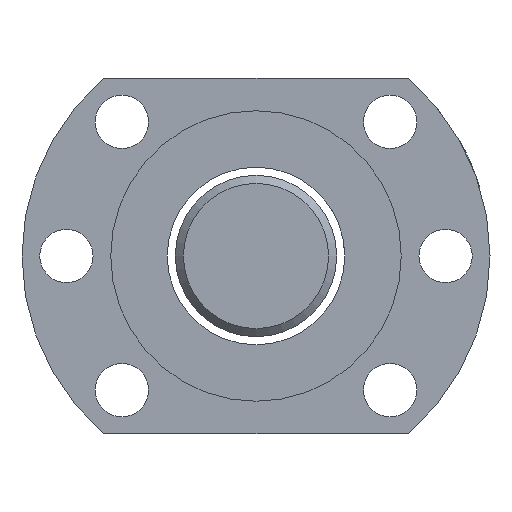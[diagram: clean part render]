
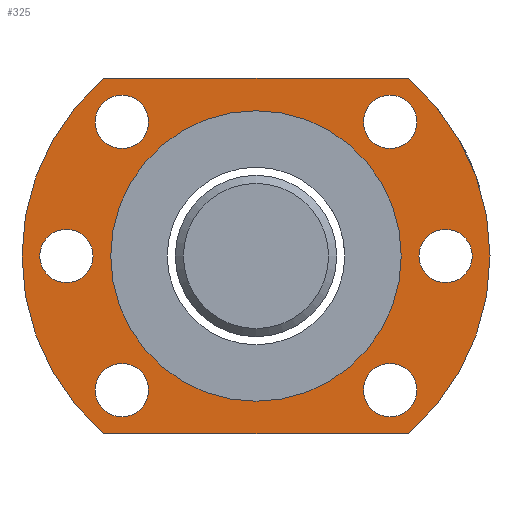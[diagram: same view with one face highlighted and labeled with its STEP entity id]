
A CAD part, left-side view. The second image highlights one B-rep face of the part: STEP entity #325.
In plain terms, the highlighted planar face has unit normal (-1, 0, 0).
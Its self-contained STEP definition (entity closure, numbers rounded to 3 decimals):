
#42 = DIRECTION ( 'NONE',  ( 0., 0., 1. ) ) ;
#60 = DIRECTION ( 'NONE',  ( 0., 0., -1. ) ) ;
#63 = EDGE_LOOP ( 'NONE', ( #995 ) ) ;
#90 = AXIS2_PLACEMENT_3D ( 'NONE', #498, #1494, #2589 ) ;
#164 = EDGE_CURVE ( 'NONE', #2120, #2120, #1975, .T. ) ;
#168 = CARTESIAN_POINT ( 'NONE',  ( -65.328, -20.475, -53.11 ) ) ;
#260 = DIRECTION ( 'NONE',  ( -1., 0., 0. ) ) ;
#265 = VERTEX_POINT ( 'NONE', #2471 ) ;
#274 = PLANE ( 'NONE',  #720 ) ;
#302 = EDGE_LOOP ( 'NONE', ( #1892 ) ) ;
#325 = ADVANCED_FACE ( 'NONE', ( #2270, #2073, #622, #1645, #649, #2285, #636, #454 ), #274, .T. ) ;
#340 = CIRCLE ( 'NONE', #2404, 3.3 ) ;
#351 = EDGE_LOOP ( 'NONE', ( #1257, #2218, #1585, #1439 ) ) ;
#366 = CARTESIAN_POINT ( 'NONE',  ( -65.328, -43.975, -31.81 ) ) ;
#384 = AXIS2_PLACEMENT_3D ( 'NONE', #1074, #2504, #865 ) ;
#393 = CARTESIAN_POINT ( 'NONE',  ( -65.328, -37.092, -48.427 ) ) ;
#401 = DIRECTION ( 'NONE',  ( 0., 0., 1. ) ) ;
#437 = EDGE_CURVE ( 'NONE', #1917, #1917, #968, .T. ) ;
#454 = FACE_BOUND ( 'NONE', #576, .T. ) ;
#463 = CARTESIAN_POINT ( 'NONE',  ( -65.328, -37.092, -51.727 ) ) ;
#498 = CARTESIAN_POINT ( 'NONE',  ( -65.328, -3.858, -51.727 ) ) ;
#499 = EDGE_LOOP ( 'NONE', ( #1296 ) ) ;
#512 = AXIS2_PLACEMENT_3D ( 'NONE', #1619, #1860, #60 ) ;
#538 = VERTEX_POINT ( 'NONE', #601 ) ;
#551 = EDGE_CURVE ( 'NONE', #1412, #1412, #1096, .T. ) ;
#576 = EDGE_LOOP ( 'NONE', ( #1878 ) ) ;
#601 = CARTESIAN_POINT ( 'NONE',  ( -65.328, -39.369, -57.11 ) ) ;
#622 = FACE_BOUND ( 'NONE', #2119, .T. ) ;
#623 = DIRECTION ( 'NONE',  ( 0., 1., 0. ) ) ;
#636 = FACE_OUTER_BOUND ( 'NONE', #351, .T. ) ;
#649 = FACE_BOUND ( 'NONE', #1410, .T. ) ;
#661 = EDGE_CURVE ( 'NONE', #2199, #2199, #340, .T. ) ;
#720 = AXIS2_PLACEMENT_3D ( 'NONE', #1279, #1434, #1844 ) ;
#768 = DIRECTION ( 'NONE',  ( 0., 0., 1. ) ) ;
#821 = LINE ( 'NONE', #2286, #1264 ) ;
#840 = AXIS2_PLACEMENT_3D ( 'NONE', #1398, #2207, #401 ) ;
#865 = DIRECTION ( 'NONE',  ( 0., 0., 1. ) ) ;
#932 = EDGE_CURVE ( 'NONE', #1574, #1574, #2570, .T. ) ;
#935 = CARTESIAN_POINT ( 'NONE',  ( -65.328, -39.369, -13.11 ) ) ;
#968 = CIRCLE ( 'NONE', #1178, 18. ) ;
#995 = ORIENTED_EDGE ( 'NONE', *, *, #661, .T. ) ;
#1008 = CARTESIAN_POINT ( 'NONE',  ( -65.328, -3.858, -48.427 ) ) ;
#1020 = CARTESIAN_POINT ( 'NONE',  ( -65.328, -20.475, -35.11 ) ) ;
#1021 = VERTEX_POINT ( 'NONE', #1163 ) ;
#1035 = VERTEX_POINT ( 'NONE', #935 ) ;
#1057 = DIRECTION ( 'NONE',  ( 0., 0., -1. ) ) ;
#1065 = DIRECTION ( 'NONE',  ( 1., 0., 0. ) ) ;
#1074 = CARTESIAN_POINT ( 'NONE',  ( -65.328, -37.092, -18.493 ) ) ;
#1085 = CARTESIAN_POINT ( 'NONE',  ( -65.328, 3.025, -35.11 ) ) ;
#1096 = CIRCLE ( 'NONE', #840, 3.3 ) ;
#1113 = CARTESIAN_POINT ( 'NONE',  ( -65.328, -3.858, -15.193 ) ) ;
#1163 = CARTESIAN_POINT ( 'NONE',  ( -65.328, -37.092, -15.193 ) ) ;
#1177 = EDGE_CURVE ( 'NONE', #1785, #1785, #1218, .T. ) ;
#1178 = AXIS2_PLACEMENT_3D ( 'NONE', #1518, #1901, #2338 ) ;
#1218 = CIRCLE ( 'NONE', #90, 3.3 ) ;
#1257 = ORIENTED_EDGE ( 'NONE', *, *, #1400, .T. ) ;
#1264 = VECTOR ( 'NONE', #623, 1000. ) ;
#1267 = CARTESIAN_POINT ( 'NONE',  ( -65.328, -3.858, -18.493 ) ) ;
#1279 = CARTESIAN_POINT ( 'NONE',  ( -65.328, -20.475, -35.11 ) ) ;
#1296 = ORIENTED_EDGE ( 'NONE', *, *, #1177, .F. ) ;
#1398 = CARTESIAN_POINT ( 'NONE',  ( -65.328, -43.975, -35.11 ) ) ;
#1400 = EDGE_CURVE ( 'NONE', #538, #1035, #2232, .T. ) ;
#1410 = EDGE_LOOP ( 'NONE', ( #1769 ) ) ;
#1412 = VERTEX_POINT ( 'NONE', #366 ) ;
#1414 = EDGE_CURVE ( 'NONE', #1546, #265, #1768, .T. ) ;
#1434 = DIRECTION ( 'NONE',  ( -1., 0., 0. ) ) ;
#1439 = ORIENTED_EDGE ( 'NONE', *, *, #1528, .T. ) ;
#1478 = CARTESIAN_POINT ( 'NONE',  ( -65.328, -1.581, -57.11 ) ) ;
#1494 = DIRECTION ( 'NONE',  ( -1., 0., 0. ) ) ;
#1518 = CARTESIAN_POINT ( 'NONE',  ( -65.328, -20.475, -35.11 ) ) ;
#1528 = EDGE_CURVE ( 'NONE', #265, #538, #1820, .T. ) ;
#1534 = ORIENTED_EDGE ( 'NONE', *, *, #2194, .T. ) ;
#1546 = VERTEX_POINT ( 'NONE', #1674 ) ;
#1562 = EDGE_CURVE ( 'NONE', #1035, #1546, #821, .T. ) ;
#1574 = VERTEX_POINT ( 'NONE', #1586 ) ;
#1585 = ORIENTED_EDGE ( 'NONE', *, *, #1414, .T. ) ;
#1586 = CARTESIAN_POINT ( 'NONE',  ( -65.328, 3.025, -31.81 ) ) ;
#1596 = ORIENTED_EDGE ( 'NONE', *, *, #551, .T. ) ;
#1619 = CARTESIAN_POINT ( 'NONE',  ( -65.328, -20.475, -35.11 ) ) ;
#1635 = AXIS2_PLACEMENT_3D ( 'NONE', #1020, #260, #1057 ) ;
#1645 = FACE_BOUND ( 'NONE', #302, .T. ) ;
#1646 = DIRECTION ( 'NONE',  ( 0., -1., 0. ) ) ;
#1668 = DIRECTION ( 'NONE',  ( 0., 0., 1. ) ) ;
#1674 = CARTESIAN_POINT ( 'NONE',  ( -65.328, -1.581, -13.11 ) ) ;
#1685 = VECTOR ( 'NONE', #1646, 1000. ) ;
#1768 = CIRCLE ( 'NONE', #512, 29. ) ;
#1769 = ORIENTED_EDGE ( 'NONE', *, *, #164, .F. ) ;
#1785 = VERTEX_POINT ( 'NONE', #1008 ) ;
#1820 = LINE ( 'NONE', #1478, #1685 ) ;
#1844 = DIRECTION ( 'NONE',  ( 0., 0., 1. ) ) ;
#1859 = DIRECTION ( 'NONE',  ( -1., 0., 0. ) ) ;
#1860 = DIRECTION ( 'NONE',  ( -1., 0., 0. ) ) ;
#1878 = ORIENTED_EDGE ( 'NONE', *, *, #437, .F. ) ;
#1891 = DIRECTION ( 'NONE',  ( -1., 0., 0. ) ) ;
#1892 = ORIENTED_EDGE ( 'NONE', *, *, #932, .F. ) ;
#1901 = DIRECTION ( 'NONE',  ( -1., 0., 0. ) ) ;
#1917 = VERTEX_POINT ( 'NONE', #168 ) ;
#1975 = CIRCLE ( 'NONE', #2317, 3.3 ) ;
#2073 = FACE_BOUND ( 'NONE', #499, .T. ) ;
#2107 = AXIS2_PLACEMENT_3D ( 'NONE', #1085, #1891, #768 ) ;
#2119 = EDGE_LOOP ( 'NONE', ( #1596 ) ) ;
#2120 = VERTEX_POINT ( 'NONE', #1113 ) ;
#2194 = EDGE_CURVE ( 'NONE', #1021, #1021, #2236, .T. ) ;
#2199 = VERTEX_POINT ( 'NONE', #393 ) ;
#2207 = DIRECTION ( 'NONE',  ( 1., 0., 0. ) ) ;
#2218 = ORIENTED_EDGE ( 'NONE', *, *, #1562, .T. ) ;
#2232 = CIRCLE ( 'NONE', #1635, 29. ) ;
#2236 = CIRCLE ( 'NONE', #384, 3.3 ) ;
#2270 = FACE_BOUND ( 'NONE', #63, .T. ) ;
#2275 = EDGE_LOOP ( 'NONE', ( #1534 ) ) ;
#2285 = FACE_BOUND ( 'NONE', #2275, .T. ) ;
#2286 = CARTESIAN_POINT ( 'NONE',  ( -65.328, -39.369, -13.11 ) ) ;
#2317 = AXIS2_PLACEMENT_3D ( 'NONE', #1267, #1859, #42 ) ;
#2338 = DIRECTION ( 'NONE',  ( 0., 0., -1. ) ) ;
#2404 = AXIS2_PLACEMENT_3D ( 'NONE', #463, #1065, #1668 ) ;
#2471 = CARTESIAN_POINT ( 'NONE',  ( -65.328, -1.581, -57.11 ) ) ;
#2504 = DIRECTION ( 'NONE',  ( 1., 0., 0. ) ) ;
#2570 = CIRCLE ( 'NONE', #2107, 3.3 ) ;
#2589 = DIRECTION ( 'NONE',  ( 0., 0., 1. ) ) ;
